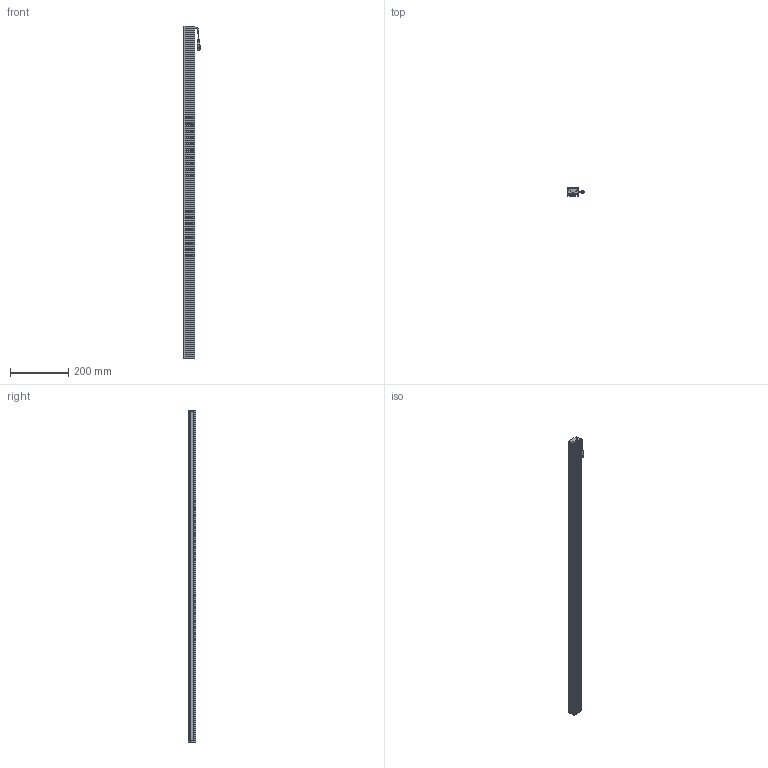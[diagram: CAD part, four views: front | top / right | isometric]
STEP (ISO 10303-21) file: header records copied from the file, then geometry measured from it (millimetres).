
FILE_DESCRIPTION (( 'STEP AP203' ), '1' );
FILE_NAME ('CK-BL113738.STEP', '2026-01-29T08:45:51', ( '' ), ( '' ), 'SwSTEP 2.0', 'SolidWorks 2022', '' );
FILE_SCHEMA (( 'CONFIG_CONTROL_DESIGN' ));
Length unit declared in the file: millimetre
Products named in the file (6): 十字沉头螺丝 M2x10; CK-BL113738-002A; 光源线; CK113738-001A; CK-BL113738; CK-BL113738-003A
Assembly tree (11 placements, depth 2):
  CK-BL113738
    CK113738-001A
    CK-BL113738-002A  x2
    CK-BL113738-003A
    光源线
    十字沉头螺丝 M2x10  x6
Bounding box: 55.84 x 27 x 1137 mm (x, y, z)
Volume: 456692.1 mm3; surface area: 393435 mm2
Topology: 13 solids, 13 shells, 641 faces, 1692 edges, 1082 vertices
Faces by surface type: plane 353, cylinder 210, cone 46, bspline 32
Entity records: 16373 total; most frequent: CARTESIAN_POINT 3399, ORIENTED_EDGE 2598, DIRECTION 2515, EDGE_CURVE 1299, VECTOR 875, LINE 875, VERTEX_POINT 846, AXIS2_PLACEMENT_3D 820
